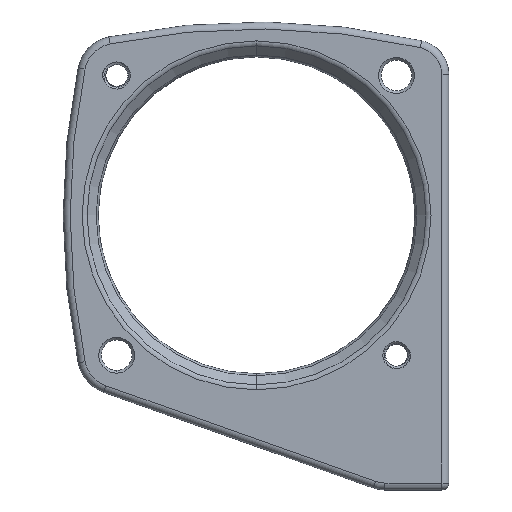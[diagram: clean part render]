
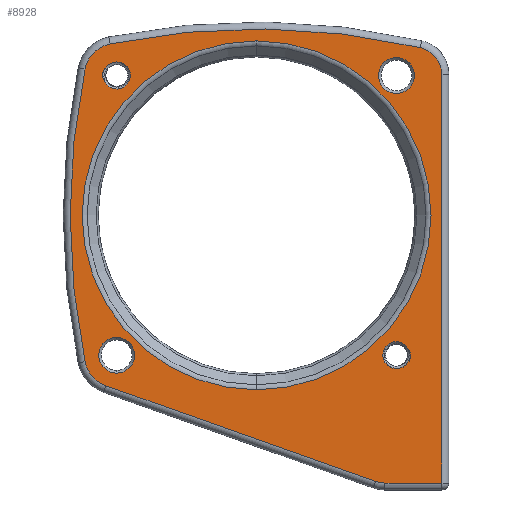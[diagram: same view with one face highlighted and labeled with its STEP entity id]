
A CAD part, front view. The second image highlights one B-rep face of the part: STEP entity #8928.
In plain terms, the highlighted planar face has unit normal (0, -1, 0).
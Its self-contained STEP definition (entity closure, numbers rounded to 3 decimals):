
#2176=AXIS2_PLACEMENT_3D('Circle Axis2P3D',#2174,#2175,$) ;
#2200=AXIS2_PLACEMENT_3D('Circle Axis2P3D',#2198,#2199,$) ;
#2238=AXIS2_PLACEMENT_3D('Circle Axis2P3D',#2236,#2237,$) ;
#2269=AXIS2_PLACEMENT_3D('Circle Axis2P3D',#2267,#2268,$) ;
#2300=AXIS2_PLACEMENT_3D('Circle Axis2P3D',#2298,#2299,$) ;
#2331=AXIS2_PLACEMENT_3D('Circle Axis2P3D',#2329,#2330,$) ;
#2362=AXIS2_PLACEMENT_3D('Circle Axis2P3D',#2360,#2361,$) ;
#2431=AXIS2_PLACEMENT_3D('Circle Axis2P3D',#2429,#2430,$) ;
#2453=AXIS2_PLACEMENT_3D('Circle Axis2P3D',#2451,#2452,$) ;
#2493=AXIS2_PLACEMENT_3D('Circle Axis2P3D',#2491,#2492,$) ;
#2515=AXIS2_PLACEMENT_3D('Circle Axis2P3D',#2513,#2514,$) ;
#2983=AXIS2_PLACEMENT_3D('Circle Axis2P3D',#2981,#2982,$) ;
#6586=AXIS2_PLACEMENT_3D('Circle Axis2P3D',#6584,#6585,$) ;
#6646=AXIS2_PLACEMENT_3D('Circle Axis2P3D',#6644,#6645,$) ;
#8857=AXIS2_PLACEMENT_3D('Plane Axis2P3D',#8854,#8855,#8856) ;
#8894=AXIS2_PLACEMENT_3D('Circle Axis2P3D',#8892,#8893,$) ;
#8901=AXIS2_PLACEMENT_3D('Circle Axis2P3D',#8899,#8900,$) ;
#2171=CARTESIAN_POINT('Vertex',(16.,-3.,-3.959)) ;
#2174=CARTESIAN_POINT('Axis2P3D Location',(16.,-3.,16.)) ;
#2178=CARTESIAN_POINT('Vertex',(16.,-3.,35.959)) ;
#2198=CARTESIAN_POINT('Axis2P3D Location',(16.,-3.,16.)) ;
#2219=CARTESIAN_POINT('Vertex',(-3.624,-3.,-0.745)) ;
#2233=CARTESIAN_POINT('Vertex',(-1.238,-3.,-3.487)) ;
#2236=CARTESIAN_POINT('Axis2P3D Location',(0.,-3.,0.)) ;
#2257=CARTESIAN_POINT('Vertex',(-3.624,-3.,32.745)) ;
#2267=CARTESIAN_POINT('Axis2P3D Location',(77.839,-3.,16.)) ;
#2288=CARTESIAN_POINT('Vertex',(-0.745,-3.,35.624)) ;
#2298=CARTESIAN_POINT('Axis2P3D Location',(0.,-3.,32.)) ;
#2319=CARTESIAN_POINT('Vertex',(34.72,-3.,35.193)) ;
#2329=CARTESIAN_POINT('Axis2P3D Location',(16.,-3.,-45.839)) ;
#2350=CARTESIAN_POINT('Vertex',(37.2,-3.,32.075)) ;
#2360=CARTESIAN_POINT('Axis2P3D Location',(34.,-3.,32.075)) ;
#2381=CARTESIAN_POINT('Vertex',(37.2,-3.,-14.623)) ;
#2389=CARTESIAN_POINT('Line Origine',(37.2,-3.,11.352)) ;
#2410=CARTESIAN_POINT('Vertex',(32.,-3.,29.95)) ;
#2426=CARTESIAN_POINT('Vertex',(32.,-3.,34.05)) ;
#2429=CARTESIAN_POINT('Axis2P3D Location',(32.,-3.,32.)) ;
#2451=CARTESIAN_POINT('Axis2P3D Location',(32.,-3.,32.)) ;
#2472=CARTESIAN_POINT('Vertex',(0.,-3.,-2.05)) ;
#2488=CARTESIAN_POINT('Vertex',(0.,-3.,2.05)) ;
#2491=CARTESIAN_POINT('Axis2P3D Location',(0.,-3.,0.)) ;
#2513=CARTESIAN_POINT('Axis2P3D Location',(0.,-3.,0.)) ;
#2937=CARTESIAN_POINT('Vertex',(29.618,-3.,-14.439)) ;
#2940=CARTESIAN_POINT('Line Origine',(15.936,-3.,-9.582)) ;
#2978=CARTESIAN_POINT('Vertex',(30.689,-3.,-14.623)) ;
#2981=CARTESIAN_POINT('Axis2P3D Location',(30.689,-3.,-11.423)) ;
#3003=CARTESIAN_POINT('Line Origine',(15.936,-3.,-14.623)) ;
#6579=CARTESIAN_POINT('Vertex',(30.64,-3.,0.743)) ;
#6584=CARTESIAN_POINT('Axis2P3D Location',(32.,-3.,0.)) ;
#6588=CARTESIAN_POINT('Vertex',(33.326,-3.,-0.802)) ;
#6641=CARTESIAN_POINT('Vertex',(33.326,-3.,0.802)) ;
#6644=CARTESIAN_POINT('Axis2P3D Location',(32.,-3.,0.)) ;
#8775=CARTESIAN_POINT('Vertex',(33.625,-3.,0.)) ;
#8811=CARTESIAN_POINT('Control Point',(33.625,-3.,0.)) ;
#8812=CARTESIAN_POINT('Control Point',(33.6,-3.,-0.29)) ;
#8813=CARTESIAN_POINT('Control Point',(33.496,-3.,-0.571)) ;
#8814=CARTESIAN_POINT('Control Point',(33.326,-3.,-0.802)) ;
#8843=CARTESIAN_POINT('Control Point',(33.625,-3.,0.)) ;
#8844=CARTESIAN_POINT('Control Point',(33.6,-3.,0.29)) ;
#8845=CARTESIAN_POINT('Control Point',(33.496,-3.,0.571)) ;
#8846=CARTESIAN_POINT('Control Point',(33.326,-3.,0.802)) ;
#8854=CARTESIAN_POINT('Axis2P3D Location',(0.,-3.,0.)) ;
#8871=CARTESIAN_POINT('Control Point',(-1.625,-3.,32.)) ;
#8872=CARTESIAN_POINT('Control Point',(-1.61,-3.,31.826)) ;
#8873=CARTESIAN_POINT('Control Point',(-1.572,-3.,31.655)) ;
#8874=CARTESIAN_POINT('Control Point',(-1.511,-3.,31.49)) ;
#8875=CARTESIAN_POINT('Control Point',(-1.428,-3.,31.336)) ;
#8876=CARTESIAN_POINT('Control Point',(-1.326,-3.,31.198)) ;
#8877=CARTESIAN_POINT('Vertex',(-1.625,-3.,32.)) ;
#8879=CARTESIAN_POINT('Vertex',(-1.326,-3.,31.198)) ;
#8883=CARTESIAN_POINT('Control Point',(-1.625,-3.,32.)) ;
#8884=CARTESIAN_POINT('Control Point',(-1.61,-3.,32.174)) ;
#8885=CARTESIAN_POINT('Control Point',(-1.572,-3.,32.345)) ;
#8886=CARTESIAN_POINT('Control Point',(-1.511,-3.,32.51)) ;
#8887=CARTESIAN_POINT('Control Point',(-1.428,-3.,32.664)) ;
#8888=CARTESIAN_POINT('Control Point',(-1.326,-3.,32.802)) ;
#8889=CARTESIAN_POINT('Vertex',(-1.326,-3.,32.802)) ;
#8892=CARTESIAN_POINT('Axis2P3D Location',(0.,-3.,32.)) ;
#8896=CARTESIAN_POINT('Vertex',(1.36,-3.,31.257)) ;
#8899=CARTESIAN_POINT('Axis2P3D Location',(0.,-3.,32.)) ;
#2175=DIRECTION('Axis2P3D Direction',(0.,1.,-0.)) ;
#2199=DIRECTION('Axis2P3D Direction',(-0.,1.,0.)) ;
#2237=DIRECTION('Axis2P3D Direction',(0.,1.,0.)) ;
#2268=DIRECTION('Axis2P3D Direction',(0.,1.,0.)) ;
#2299=DIRECTION('Axis2P3D Direction',(0.,1.,0.)) ;
#2330=DIRECTION('Axis2P3D Direction',(0.,1.,0.)) ;
#2361=DIRECTION('Axis2P3D Direction',(0.,1.,0.)) ;
#2390=DIRECTION('Vector Direction',(0.,0.,-1.)) ;
#2430=DIRECTION('Axis2P3D Direction',(-0.,1.,0.)) ;
#2452=DIRECTION('Axis2P3D Direction',(0.,1.,0.)) ;
#2492=DIRECTION('Axis2P3D Direction',(0.,1.,0.)) ;
#2514=DIRECTION('Axis2P3D Direction',(0.,1.,0.)) ;
#2941=DIRECTION('Vector Direction',(-0.942,0.,0.334)) ;
#2982=DIRECTION('Axis2P3D Direction',(-0.,1.,0.)) ;
#3004=DIRECTION('Vector Direction',(1.,0.,0.)) ;
#6585=DIRECTION('Axis2P3D Direction',(0.,1.,0.)) ;
#6645=DIRECTION('Axis2P3D Direction',(0.,1.,0.)) ;
#8855=DIRECTION('Axis2P3D Direction',(0.,1.,0.)) ;
#8856=DIRECTION('Axis2P3D XDirection',(0.,0.,1.)) ;
#8893=DIRECTION('Axis2P3D Direction',(0.,1.,0.)) ;
#8900=DIRECTION('Axis2P3D Direction',(0.,1.,0.)) ;
#2391=VECTOR('Line Direction',#2390,1.) ;
#2942=VECTOR('Line Direction',#2941,1.) ;
#3005=VECTOR('Line Direction',#3004,1.) ;
#8860=ORIENTED_EDGE('',*,*,#3007,.T.) ;
#8861=ORIENTED_EDGE('',*,*,#2393,.T.) ;
#8862=ORIENTED_EDGE('',*,*,#2364,.T.) ;
#8863=ORIENTED_EDGE('',*,*,#2333,.T.) ;
#8864=ORIENTED_EDGE('',*,*,#2302,.T.) ;
#8865=ORIENTED_EDGE('',*,*,#2271,.T.) ;
#8866=ORIENTED_EDGE('',*,*,#2240,.T.) ;
#8867=ORIENTED_EDGE('',*,*,#2944,.T.) ;
#8868=ORIENTED_EDGE('',*,*,#2985,.T.) ;
#8905=ORIENTED_EDGE('',*,*,#8881,.F.) ;
#8906=ORIENTED_EDGE('',*,*,#8891,.T.) ;
#8907=ORIENTED_EDGE('',*,*,#8898,.T.) ;
#8908=ORIENTED_EDGE('',*,*,#8903,.T.) ;
#8911=ORIENTED_EDGE('',*,*,#6590,.T.) ;
#8912=ORIENTED_EDGE('',*,*,#6648,.T.) ;
#8913=ORIENTED_EDGE('',*,*,#8847,.F.) ;
#8914=ORIENTED_EDGE('',*,*,#8815,.T.) ;
#8917=ORIENTED_EDGE('',*,*,#2455,.T.) ;
#8918=ORIENTED_EDGE('',*,*,#2433,.T.) ;
#8921=ORIENTED_EDGE('',*,*,#2517,.T.) ;
#8922=ORIENTED_EDGE('',*,*,#2495,.T.) ;
#8925=ORIENTED_EDGE('',*,*,#2180,.F.) ;
#8926=ORIENTED_EDGE('',*,*,#2202,.F.) ;
#8909=FACE_BOUND('',#8904,.T.) ;
#8915=FACE_BOUND('',#8910,.T.) ;
#8919=FACE_BOUND('',#8916,.T.) ;
#8923=FACE_BOUND('',#8920,.T.) ;
#8927=FACE_BOUND('',#8924,.T.) ;
#8928=ADVANCED_FACE('Insert',(#8869,#8909,#8915,#8919,#8923,#8927),#8858,.F.) ;
#8810=B_SPLINE_CURVE_WITH_KNOTS('',3,(#8811,#8812,#8813,#8814),.UNSPECIFIED.,.F.,.U.,(4,4),(0.,1.022),.UNSPECIFIED.) ;
#8842=B_SPLINE_CURVE_WITH_KNOTS('',3,(#8843,#8844,#8845,#8846),.UNSPECIFIED.,.F.,.U.,(4,4),(0.,1.022),.UNSPECIFIED.) ;
#8870=B_SPLINE_CURVE_WITH_KNOTS('',5,(#8871,#8872,#8873,#8874,#8875,#8876),.UNSPECIFIED.,.F.,.U.,(6,6),(0.,1.022),.UNSPECIFIED.) ;
#8882=B_SPLINE_CURVE_WITH_KNOTS('',5,(#8883,#8884,#8885,#8886,#8887,#8888),.UNSPECIFIED.,.F.,.U.,(6,6),(0.,1.022),.UNSPECIFIED.) ;
#2177=CIRCLE('generated circle',#2176,19.959) ;
#2201=CIRCLE('generated circle',#2200,19.959) ;
#2239=CIRCLE('generated circle',#2238,3.7) ;
#2270=CIRCLE('generated circle',#2269,83.166) ;
#2301=CIRCLE('generated circle',#2300,3.7) ;
#2332=CIRCLE('generated circle',#2331,83.166) ;
#2363=CIRCLE('generated circle',#2362,3.2) ;
#2432=CIRCLE('generated circle',#2431,2.05) ;
#2454=CIRCLE('generated circle',#2453,2.05) ;
#2494=CIRCLE('generated circle',#2493,2.05) ;
#2516=CIRCLE('generated circle',#2515,2.05) ;
#2984=CIRCLE('generated circle',#2983,3.2) ;
#6587=CIRCLE('generated circle',#6586,1.55) ;
#6647=CIRCLE('generated circle',#6646,1.55) ;
#8895=CIRCLE('generated circle',#8894,1.55) ;
#8902=CIRCLE('generated circle',#8901,1.55) ;
#2180=EDGE_CURVE('',#2172,#2179,#2177,.F.) ;
#2202=EDGE_CURVE('',#2179,#2172,#2201,.F.) ;
#2240=EDGE_CURVE('',#2220,#2234,#2239,.F.) ;
#2271=EDGE_CURVE('',#2258,#2220,#2270,.F.) ;
#2302=EDGE_CURVE('',#2289,#2258,#2301,.F.) ;
#2333=EDGE_CURVE('',#2320,#2289,#2332,.F.) ;
#2364=EDGE_CURVE('',#2351,#2320,#2363,.F.) ;
#2393=EDGE_CURVE('',#2382,#2351,#2392,.F.) ;
#2433=EDGE_CURVE('',#2411,#2427,#2432,.T.) ;
#2455=EDGE_CURVE('',#2427,#2411,#2454,.T.) ;
#2495=EDGE_CURVE('',#2473,#2489,#2494,.T.) ;
#2517=EDGE_CURVE('',#2489,#2473,#2516,.T.) ;
#2944=EDGE_CURVE('',#2234,#2938,#2943,.F.) ;
#2985=EDGE_CURVE('',#2938,#2979,#2984,.F.) ;
#3007=EDGE_CURVE('',#2979,#2382,#3006,.T.) ;
#6590=EDGE_CURVE('',#6589,#6580,#6587,.T.) ;
#6648=EDGE_CURVE('',#6580,#6642,#6647,.T.) ;
#8815=EDGE_CURVE('',#8776,#6589,#8810,.T.) ;
#8847=EDGE_CURVE('',#8776,#6642,#8842,.T.) ;
#8881=EDGE_CURVE('',#8878,#8880,#8870,.T.) ;
#8891=EDGE_CURVE('',#8878,#8890,#8882,.T.) ;
#8898=EDGE_CURVE('',#8890,#8897,#8895,.T.) ;
#8903=EDGE_CURVE('',#8897,#8880,#8902,.T.) ;
#8859=EDGE_LOOP('',(#8860,#8861,#8862,#8863,#8864,#8865,#8866,#8867,#8868)) ;
#8904=EDGE_LOOP('',(#8905,#8906,#8907,#8908)) ;
#8910=EDGE_LOOP('',(#8911,#8912,#8913,#8914)) ;
#8916=EDGE_LOOP('',(#8917,#8918)) ;
#8920=EDGE_LOOP('',(#8921,#8922)) ;
#8924=EDGE_LOOP('',(#8925,#8926)) ;
#8869=FACE_OUTER_BOUND('',#8859,.T.) ;
#2392=LINE('Line',#2389,#2391) ;
#2943=LINE('Line',#2940,#2942) ;
#3006=LINE('Line',#3003,#3005) ;
#8858=PLANE('',#8857) ;
#2172=VERTEX_POINT('',#2171) ;
#2179=VERTEX_POINT('',#2178) ;
#2220=VERTEX_POINT('',#2219) ;
#2234=VERTEX_POINT('',#2233) ;
#2258=VERTEX_POINT('',#2257) ;
#2289=VERTEX_POINT('',#2288) ;
#2320=VERTEX_POINT('',#2319) ;
#2351=VERTEX_POINT('',#2350) ;
#2382=VERTEX_POINT('',#2381) ;
#2411=VERTEX_POINT('',#2410) ;
#2427=VERTEX_POINT('',#2426) ;
#2473=VERTEX_POINT('',#2472) ;
#2489=VERTEX_POINT('',#2488) ;
#2938=VERTEX_POINT('',#2937) ;
#2979=VERTEX_POINT('',#2978) ;
#6580=VERTEX_POINT('',#6579) ;
#6589=VERTEX_POINT('',#6588) ;
#6642=VERTEX_POINT('',#6641) ;
#8776=VERTEX_POINT('',#8775) ;
#8878=VERTEX_POINT('',#8877) ;
#8880=VERTEX_POINT('',#8879) ;
#8890=VERTEX_POINT('',#8889) ;
#8897=VERTEX_POINT('',#8896) ;
